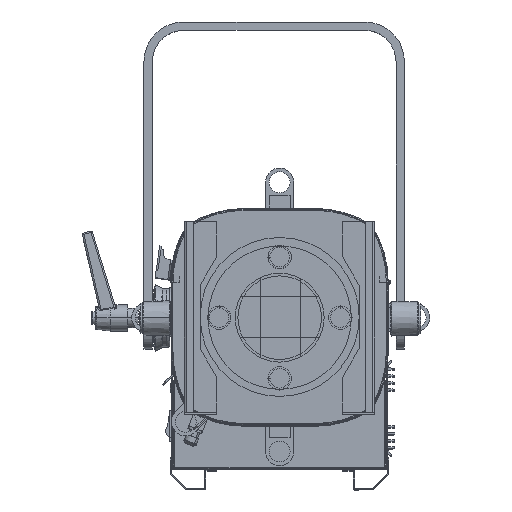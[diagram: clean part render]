
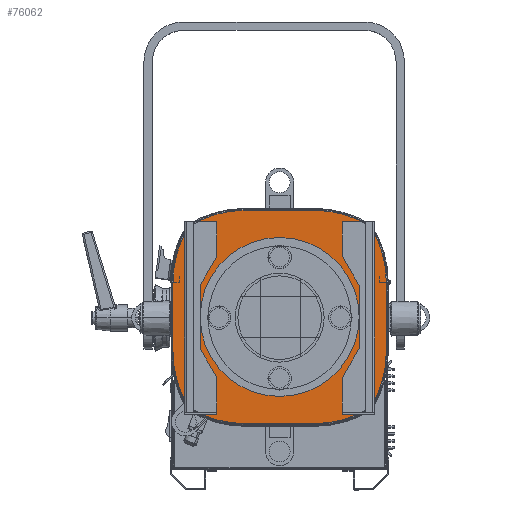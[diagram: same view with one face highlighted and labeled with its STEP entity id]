
A CAD part, top view. The second image highlights one B-rep face of the part: STEP entity #76062.
In plain terms, the highlighted planar face has unit normal (0, 0, 1) as drawn and (0, 0, -1) by its records, which use the part's own axes.
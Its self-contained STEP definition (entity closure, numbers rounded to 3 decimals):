
#105 = EDGE_CURVE ( 'NONE', #9630, #4428, #75838, .T. ) ;
#289 = ORIENTED_EDGE ( 'NONE', *, *, #85555, .T. ) ;
#350 = DIRECTION ( 'NONE',  ( -1., 0., 0. ) ) ;
#1962 = VERTEX_POINT ( 'NONE', #3641 ) ;
#2946 = DIRECTION ( 'NONE',  ( 0., 0., -1. ) ) ;
#3448 = DIRECTION ( 'NONE',  ( -1., 0., 0. ) ) ;
#3575 = CIRCLE ( 'NONE', #19824, 76. ) ;
#3641 = CARTESIAN_POINT ( 'NONE',  ( -33., 102., -637.9 ) ) ;
#3839 = EDGE_CURVE ( 'NONE', #90430, #18585, #53420, .T. ) ;
#4220 = DIRECTION ( 'NONE',  ( 0., 0., -1. ) ) ;
#4428 = VERTEX_POINT ( 'NONE', #87124 ) ;
#4544 = DIRECTION ( 'NONE',  ( -1., 0., 0. ) ) ;
#4997 = AXIS2_PLACEMENT_3D ( 'NONE', #55246, #93744, #46341 ) ;
#6608 = CARTESIAN_POINT ( 'NONE',  ( 0., -33., -637.9 ) ) ;
#6795 = AXIS2_PLACEMENT_3D ( 'NONE', #97824, #4220, #12413 ) ;
#7783 = LINE ( 'NONE', #25808, #15105 ) ;
#8908 = CIRCLE ( 'NONE', #75812, 76. ) ;
#9031 = DIRECTION ( 'NONE',  ( -1., 0., 0. ) ) ;
#9630 = VERTEX_POINT ( 'NONE', #62798 ) ;
#9728 = EDGE_CURVE ( 'NONE', #50848, #90430, #61977, .T. ) ;
#9742 = ORIENTED_EDGE ( 'NONE', *, *, #87103, .T. ) ;
#10633 = CARTESIAN_POINT ( 'NONE',  ( 33., 0., -637.9 ) ) ;
#11019 = VERTEX_POINT ( 'NONE', #19052 ) ;
#11431 = ORIENTED_EDGE ( 'NONE', *, *, #105, .T. ) ;
#11750 = VECTOR ( 'NONE', #350, 1000. ) ;
#11813 = CARTESIAN_POINT ( 'NONE',  ( -33., -102., -637.9 ) ) ;
#12202 = VECTOR ( 'NONE', #26935, 1000. ) ;
#12413 = DIRECTION ( 'NONE',  ( -1., 0., 0. ) ) ;
#13240 = EDGE_CURVE ( 'NONE', #90618, #51437, #32525, .T. ) ;
#13862 = DIRECTION ( 'NONE',  ( -1., 0., 0. ) ) ;
#15105 = VECTOR ( 'NONE', #95823, 1000. ) ;
#16489 = DIRECTION ( 'NONE',  ( -1., 0., 0. ) ) ;
#16917 = AXIS2_PLACEMENT_3D ( 'NONE', #6608, #61367, #4544 ) ;
#17108 = FACE_BOUND ( 'NONE', #27605, .T. ) ;
#18338 = CARTESIAN_POINT ( 'NONE',  ( -102., 0., -637.9 ) ) ;
#18585 = VERTEX_POINT ( 'NONE', #11813 ) ;
#19052 = CARTESIAN_POINT ( 'NONE',  ( 76., 0., -637.9 ) ) ;
#19174 = CARTESIAN_POINT ( 'NONE',  ( 86.712, -86.712, -637.9 ) ) ;
#19824 = AXIS2_PLACEMENT_3D ( 'NONE', #83501, #44666, #13862 ) ;
#20495 = CARTESIAN_POINT ( 'NONE',  ( 33., -102., -637.9 ) ) ;
#20741 = LINE ( 'NONE', #18338, #12202 ) ;
#22440 = ORIENTED_EDGE ( 'NONE', *, *, #9728, .T. ) ;
#22789 = CIRCLE ( 'NONE', #53314, 102. ) ;
#23757 = CARTESIAN_POINT ( 'NONE',  ( -33., 0., -637.9 ) ) ;
#24745 = VERTEX_POINT ( 'NONE', #62657 ) ;
#25808 = CARTESIAN_POINT ( 'NONE',  ( -33., 102., -637.9 ) ) ;
#26423 = AXIS2_PLACEMENT_3D ( 'NONE', #23757, #54574, #9031 ) ;
#26935 = DIRECTION ( 'NONE',  ( 0., 1., 0. ) ) ;
#27018 = EDGE_CURVE ( 'NONE', #1962, #90618, #7783, .T. ) ;
#27556 = ORIENTED_EDGE ( 'NONE', *, *, #86565, .T. ) ;
#27605 = EDGE_LOOP ( 'NONE', ( #87842, #98424 ) ) ;
#28031 = AXIS2_PLACEMENT_3D ( 'NONE', #10633, #51019, #3448 ) ;
#30486 = PLANE ( 'NONE',  #48611 ) ;
#31195 = CARTESIAN_POINT ( 'NONE',  ( 102., 0., -637.9 ) ) ;
#32317 = CARTESIAN_POINT ( 'NONE',  ( -86.712, 86.712, -637.9 ) ) ;
#32525 = CIRCLE ( 'NONE', #6795, 102. ) ;
#34592 = EDGE_LOOP ( 'NONE', ( #22440, #88366, #9742, #11431, #57542, #27556, #289, #43272, #90447, #38026, #83687, #99513 ) ) ;
#34915 = VERTEX_POINT ( 'NONE', #54838 ) ;
#36368 = CIRCLE ( 'NONE', #55822, 102. ) ;
#37024 = VECTOR ( 'NONE', #39391, 1000. ) ;
#38026 = ORIENTED_EDGE ( 'NONE', *, *, #73064, .T. ) ;
#39391 = DIRECTION ( 'NONE',  ( 0., -1., 0. ) ) ;
#39558 = DIRECTION ( 'NONE',  ( -1., 0., 0. ) ) ;
#43272 = ORIENTED_EDGE ( 'NONE', *, *, #27018, .T. ) ;
#44666 = DIRECTION ( 'NONE',  ( 0., 0., -1. ) ) ;
#46341 = DIRECTION ( 'NONE',  ( -1., 0., 0. ) ) ;
#46465 = DIRECTION ( 'NONE',  ( 0., 0., -1. ) ) ;
#46885 = LINE ( 'NONE', #31195, #37024 ) ;
#47175 = CARTESIAN_POINT ( 'NONE',  ( 0., 0., -637.9 ) ) ;
#47519 = DIRECTION ( 'NONE',  ( 0., 0., -1. ) ) ;
#48611 = AXIS2_PLACEMENT_3D ( 'NONE', #93338, #61020, #68457 ) ;
#50848 = VERTEX_POINT ( 'NONE', #19174 ) ;
#51019 = DIRECTION ( 'NONE',  ( 0., 0., -1. ) ) ;
#51437 = VERTEX_POINT ( 'NONE', #68914 ) ;
#53314 = AXIS2_PLACEMENT_3D ( 'NONE', #86318, #46465, #39558 ) ;
#53420 = LINE ( 'NONE', #54103, #11750 ) ;
#54103 = CARTESIAN_POINT ( 'NONE',  ( -33., -102., -637.9 ) ) ;
#54574 = DIRECTION ( 'NONE',  ( 0., 0., -1. ) ) ;
#54838 = CARTESIAN_POINT ( 'NONE',  ( 102., -33., -637.9 ) ) ;
#55050 = CARTESIAN_POINT ( 'NONE',  ( 33., 102., -637.9 ) ) ;
#55246 = CARTESIAN_POINT ( 'NONE',  ( 0., -33., -637.9 ) ) ;
#55560 = CARTESIAN_POINT ( 'NONE',  ( -33., 0., -637.9 ) ) ;
#55822 = AXIS2_PLACEMENT_3D ( 'NONE', #55560, #63396, #16489 ) ;
#57542 = ORIENTED_EDGE ( 'NONE', *, *, #82903, .T. ) ;
#61020 = DIRECTION ( 'NONE',  ( 0., 0., -1. ) ) ;
#61367 = DIRECTION ( 'NONE',  ( 0., 0., -1. ) ) ;
#61977 = CIRCLE ( 'NONE', #28031, 102. ) ;
#62541 = VERTEX_POINT ( 'NONE', #82104 ) ;
#62657 = CARTESIAN_POINT ( 'NONE',  ( 102., 33., -637.9 ) ) ;
#62798 = CARTESIAN_POINT ( 'NONE',  ( -86.712, -86.712, -637.9 ) ) ;
#63396 = DIRECTION ( 'NONE',  ( 0., 0., -1. ) ) ;
#65036 = CARTESIAN_POINT ( 'NONE',  ( -76., 0., -637.9 ) ) ;
#66333 = EDGE_CURVE ( 'NONE', #24745, #34915, #46885, .T. ) ;
#66573 = CIRCLE ( 'NONE', #73130, 102. ) ;
#68457 = DIRECTION ( 'NONE',  ( -1., 0., 0. ) ) ;
#68742 = VERTEX_POINT ( 'NONE', #32317 ) ;
#68914 = CARTESIAN_POINT ( 'NONE',  ( 86.712, 86.712, -637.9 ) ) ;
#70282 = CIRCLE ( 'NONE', #4997, 102. ) ;
#70660 = DIRECTION ( 'NONE',  ( -1., 0., 0. ) ) ;
#73064 = EDGE_CURVE ( 'NONE', #51437, #24745, #66573, .T. ) ;
#73130 = AXIS2_PLACEMENT_3D ( 'NONE', #73252, #2946, #96868 ) ;
#73252 = CARTESIAN_POINT ( 'NONE',  ( 0., 33., -637.9 ) ) ;
#74131 = EDGE_CURVE ( 'NONE', #89663, #11019, #8908, .T. ) ;
#75812 = AXIS2_PLACEMENT_3D ( 'NONE', #47175, #47519, #70660 ) ;
#75838 = CIRCLE ( 'NONE', #16917, 102. ) ;
#76062 = ADVANCED_FACE ( 'NONE', ( #17108, #89298 ), #30486, .T. ) ;
#80001 = CIRCLE ( 'NONE', #26423, 102. ) ;
#82104 = CARTESIAN_POINT ( 'NONE',  ( -102., 33., -637.9 ) ) ;
#82903 = EDGE_CURVE ( 'NONE', #4428, #62541, #20741, .T. ) ;
#83501 = CARTESIAN_POINT ( 'NONE',  ( 0., 0., -637.9 ) ) ;
#83687 = ORIENTED_EDGE ( 'NONE', *, *, #66333, .T. ) ;
#85555 = EDGE_CURVE ( 'NONE', #68742, #1962, #36368, .T. ) ;
#86318 = CARTESIAN_POINT ( 'NONE',  ( 0., 33., -637.9 ) ) ;
#86565 = EDGE_CURVE ( 'NONE', #62541, #68742, #22789, .T. ) ;
#87103 = EDGE_CURVE ( 'NONE', #18585, #9630, #80001, .T. ) ;
#87124 = CARTESIAN_POINT ( 'NONE',  ( -102., -33., -637.9 ) ) ;
#87842 = ORIENTED_EDGE ( 'NONE', *, *, #74131, .F. ) ;
#88366 = ORIENTED_EDGE ( 'NONE', *, *, #3839, .T. ) ;
#89298 = FACE_OUTER_BOUND ( 'NONE', #34592, .T. ) ;
#89663 = VERTEX_POINT ( 'NONE', #65036 ) ;
#90430 = VERTEX_POINT ( 'NONE', #20495 ) ;
#90447 = ORIENTED_EDGE ( 'NONE', *, *, #13240, .T. ) ;
#90618 = VERTEX_POINT ( 'NONE', #55050 ) ;
#91518 = EDGE_CURVE ( 'NONE', #34915, #50848, #70282, .T. ) ;
#93338 = CARTESIAN_POINT ( 'NONE',  ( -33., 0., -637.9 ) ) ;
#93744 = DIRECTION ( 'NONE',  ( 0., 0., -1. ) ) ;
#95823 = DIRECTION ( 'NONE',  ( 1., 0., 0. ) ) ;
#96868 = DIRECTION ( 'NONE',  ( -1., 0., 0. ) ) ;
#97429 = EDGE_CURVE ( 'NONE', #11019, #89663, #3575, .T. ) ;
#97824 = CARTESIAN_POINT ( 'NONE',  ( 33., 0., -637.9 ) ) ;
#98424 = ORIENTED_EDGE ( 'NONE', *, *, #97429, .F. ) ;
#99513 = ORIENTED_EDGE ( 'NONE', *, *, #91518, .T. ) ;
